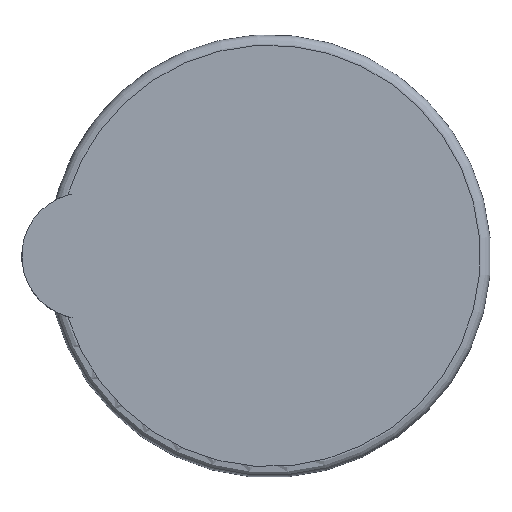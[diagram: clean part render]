
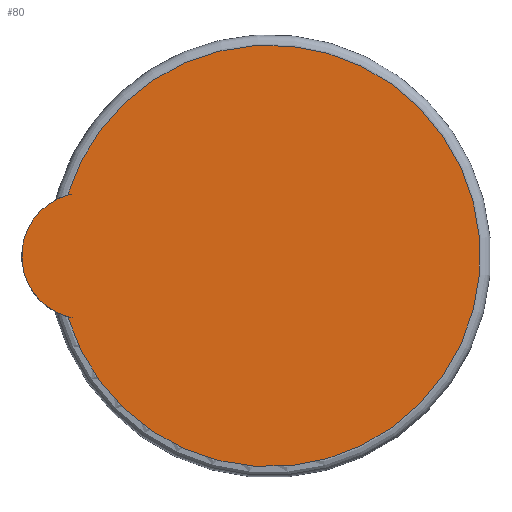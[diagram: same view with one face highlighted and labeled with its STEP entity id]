
A CAD part, top view. The second image highlights one B-rep face of the part: STEP entity #80.
In plain terms, the highlighted planar face has unit normal (0, 0, 1).
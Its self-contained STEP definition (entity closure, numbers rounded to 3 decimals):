
#80=ADVANCED_FACE('',(#167),#168,.F.);
#167=FACE_OUTER_BOUND('',#250,.T.);
#168=PLANE('',#251);
#250=EDGE_LOOP('',(#388,#389));
#251=AXIS2_PLACEMENT_3D('',#390,#391,#392);
#388=ORIENTED_EDGE('',*,*,#465,.F.);
#389=ORIENTED_EDGE('',*,*,#458,.F.);
#390=CARTESIAN_POINT('',(0.0,0.0,26.));
#391=DIRECTION('',(-0.0,0.,-1.0));
#392=DIRECTION('',(0.0,1.0,0.));
#458=EDGE_CURVE('',#525,#509,#527,.T.);
#465=EDGE_CURVE('',#509,#525,#534,.T.);
#509=VERTEX_POINT('',#578);
#525=VERTEX_POINT('',#646);
#527=CIRCLE('',#651,6.0);
#534=CIRCLE('',#658,20.);
#578=CARTESIAN_POINT('',(-19.15,5.769,26.));
#646=CARTESIAN_POINT('',(-19.15,-5.769,26.));
#651=AXIS2_PLACEMENT_3D('',#704,#705,#706);
#658=AXIS2_PLACEMENT_3D('',#716,#717,#718);
#704=CARTESIAN_POINT('',(-17.5,0.0,26.));
#705=DIRECTION('',(0.0,0.0,-1.0));
#706=DIRECTION('',(1.0,0.0,0.0));
#716=CARTESIAN_POINT('',(0.0,0.0,26.));
#717=DIRECTION('',(-0.0,0.,-1.0));
#718=DIRECTION('',(0.0,1.0,0.));
